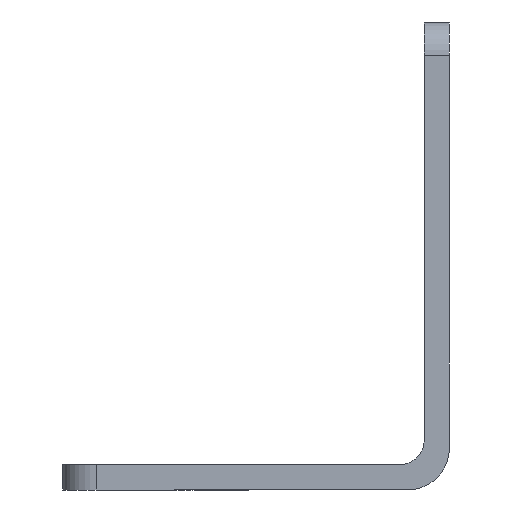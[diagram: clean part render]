
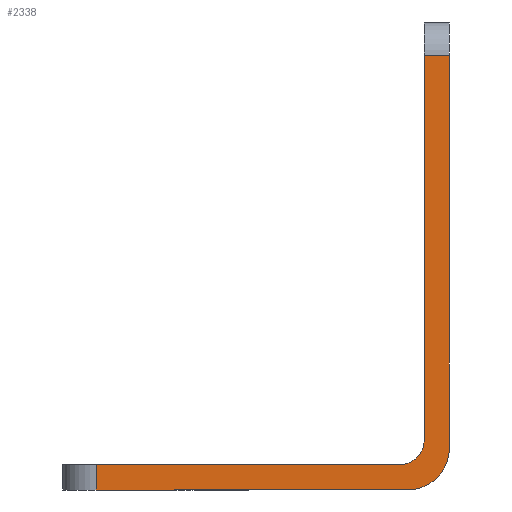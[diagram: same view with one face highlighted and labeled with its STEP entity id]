
A CAD part, front view. The second image highlights one B-rep face of the part: STEP entity #2338.
In plain terms, the highlighted planar face has unit normal (0, -1, 0).
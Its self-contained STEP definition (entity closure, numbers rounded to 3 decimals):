
#127=PLANE('',#2567);
#240=FACE_OUTER_BOUND('',#410,.T.);
#410=EDGE_LOOP('',(#2161,#2162,#2163,#2164,#2165,#2166,#2167,#2168));
#604=LINE('',#3840,#820);
#610=LINE('',#3854,#826);
#618=LINE('',#3881,#834);
#622=LINE('',#3892,#838);
#624=LINE('',#3899,#840);
#626=LINE('',#3904,#842);
#820=VECTOR('',#3171,3.);
#826=VECTOR('',#3183,37.2);
#834=VECTOR('',#3209,45.9);
#838=VECTOR('',#3221,3.);
#840=VECTOR('',#3229,36.2);
#842=VECTOR('',#3237,46.9);
#955=CIRCLE('',#2562,5.);
#956=CIRCLE('',#2565,3.);
#1156=VERTEX_POINT('',#3834);
#1158=VERTEX_POINT('',#3838);
#1163=VERTEX_POINT('',#3852);
#1172=VERTEX_POINT('',#3878);
#1173=VERTEX_POINT('',#3880);
#1176=VERTEX_POINT('',#3890);
#1177=VERTEX_POINT('',#3894);
#1178=VERTEX_POINT('',#3898);
#1476=EDGE_CURVE('',#1156,#1158,#604,.T.);
#1483=EDGE_CURVE('',#1163,#1158,#610,.T.);
#1496=EDGE_CURVE('',#1172,#1173,#618,.T.);
#1502=EDGE_CURVE('',#1176,#1173,#622,.T.);
#1503=EDGE_CURVE('',#1177,#1163,#955,.T.);
#1505=EDGE_CURVE('',#1156,#1178,#624,.T.);
#1507=EDGE_CURVE('',#1178,#1172,#956,.T.);
#1508=EDGE_CURVE('',#1176,#1177,#626,.T.);
#2161=ORIENTED_EDGE('',*,*,#1476,.T.);
#2162=ORIENTED_EDGE('',*,*,#1483,.F.);
#2163=ORIENTED_EDGE('',*,*,#1503,.F.);
#2164=ORIENTED_EDGE('',*,*,#1508,.F.);
#2165=ORIENTED_EDGE('',*,*,#1502,.T.);
#2166=ORIENTED_EDGE('',*,*,#1496,.F.);
#2167=ORIENTED_EDGE('',*,*,#1507,.F.);
#2168=ORIENTED_EDGE('',*,*,#1505,.F.);
#2338=ADVANCED_FACE('',(#240),#127,.T.);
#2562=AXIS2_PLACEMENT_3D('',#3895,#3224,#3225);
#2565=AXIS2_PLACEMENT_3D('',#3902,#3233,#3234);
#2567=AXIS2_PLACEMENT_3D('',#3905,#3238,#3239);
#3171=DIRECTION('',(0.,0.,-1.));
#3183=DIRECTION('',(-1.,0.,0.));
#3209=DIRECTION('',(0.,0.,1.));
#3221=DIRECTION('',(-1.,0.,0.));
#3224=DIRECTION('center_axis',(0.,1.,0.));
#3225=DIRECTION('ref_axis',(0.,0.,1.));
#3229=DIRECTION('',(1.,0.,0.));
#3233=DIRECTION('center_axis',(0.,-1.,0.));
#3234=DIRECTION('ref_axis',(0.,0.,-1.));
#3237=DIRECTION('',(0.,0.,-1.));
#3238=DIRECTION('center_axis',(0.,-1.,0.));
#3239=DIRECTION('ref_axis',(0.,0.,1.));
#3834=CARTESIAN_POINT('',(50.2,0.,3.));
#3838=CARTESIAN_POINT('',(50.2,0.,0.));
#3840=CARTESIAN_POINT('',(50.2,0.,10.133));
#3852=CARTESIAN_POINT('',(87.4,0.,0.));
#3854=CARTESIAN_POINT('',(87.4,0.,0.));
#3878=CARTESIAN_POINT('',(89.4,0.,6.));
#3880=CARTESIAN_POINT('',(89.4,0.,51.9));
#3881=CARTESIAN_POINT('',(89.4,0.,6.));
#3890=CARTESIAN_POINT('',(92.4,0.,51.9));
#3892=CARTESIAN_POINT('',(86.272,0.,51.9));
#3894=CARTESIAN_POINT('',(92.4,0.,5.));
#3895=CARTESIAN_POINT('Origin',(87.4,0.,5.));
#3898=CARTESIAN_POINT('',(86.4,0.,3.));
#3899=CARTESIAN_POINT('',(46.2,0.,3.));
#3902=CARTESIAN_POINT('Origin',(86.4,0.,6.));
#3904=CARTESIAN_POINT('',(92.4,0.,55.9));
#3905=CARTESIAN_POINT('Origin',(80.145,0.,17.266));
